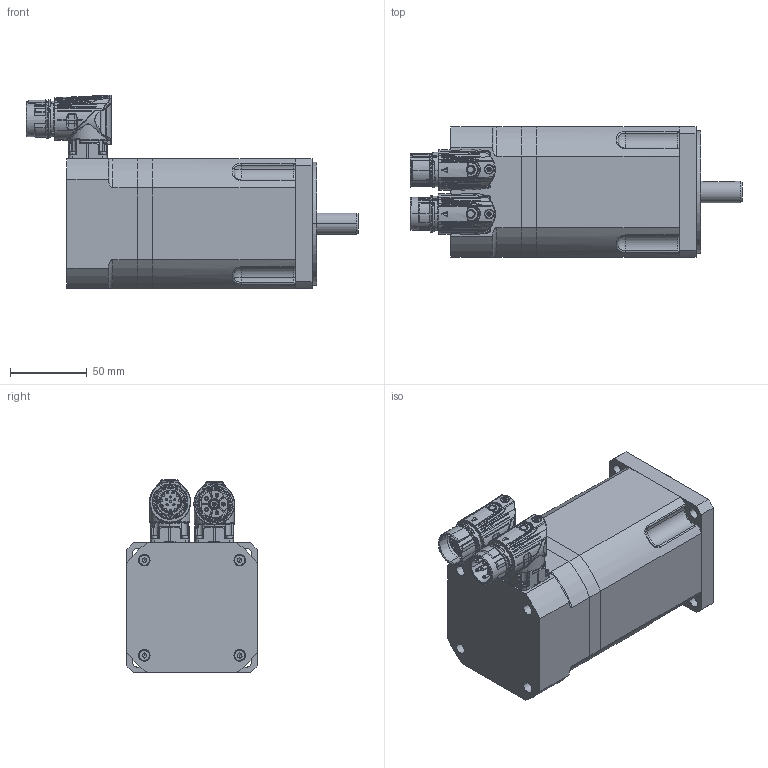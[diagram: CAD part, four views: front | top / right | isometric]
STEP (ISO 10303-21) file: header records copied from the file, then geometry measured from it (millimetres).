
FILE_DESCRIPTION(('CATIA V5 STEP Exchange'),'2;1');
FILE_NAME('C:\Documents and Settings\max\Documenti\sangallimotori\3d step\tg3\motore_DSM5_32.stp','2010-12-12T17:05:08+00:00',('none'),('none'),'CATIA Version 5 Release 10 (IN-8)','CATIA V5 STEP AP203',' none');
FILE_SCHEMA(('CONFIG_CONTROL_DESIGN'));
Assembly tree (27 placements, depth 0):
Bounding box: 216.71 x 85 x 126.43 mm (x, y, z)
Volume: 1070839.4 mm3; surface area: 137313.5 mm2
Topology: 23 solids, 28 shells, 4131 faces, 13965 edges, 9864 vertices
Faces by surface type: cylinder 1508, bspline 1326, plane 599, torus 348, cone 233, sphere 109, revolution 8
Entity records: 255437 total; most frequent: CARTESIAN_POINT 165221, ORIENTED_EDGE 25510, EDGE_CURVE 12812, VERTEX_POINT 9214, DIRECTION 8793, B_SPLINE_CURVE_WITH_KNOTS 7926, AXIS2_PLACEMENT_3D 4395, EDGE_LOOP 3851
